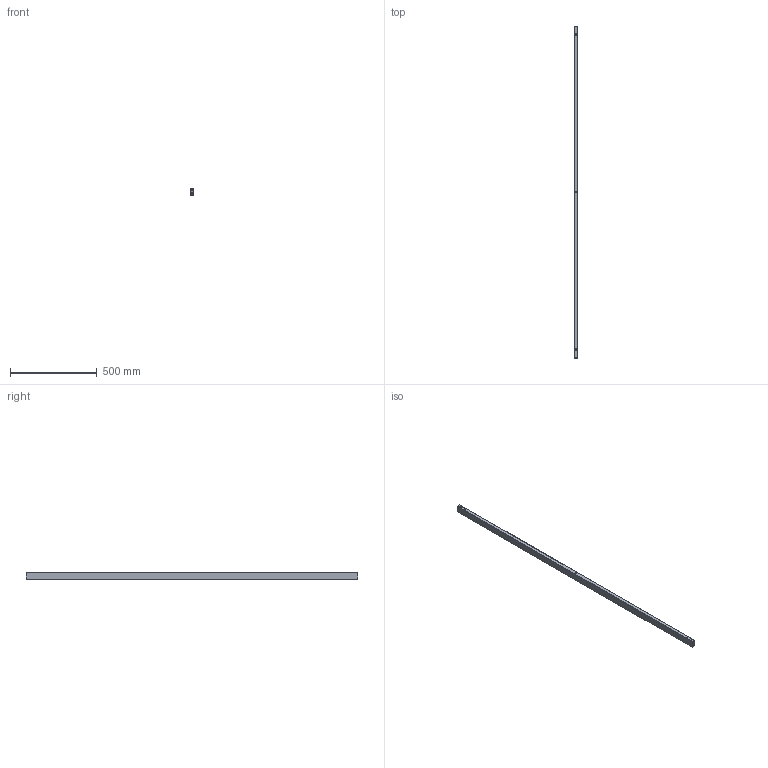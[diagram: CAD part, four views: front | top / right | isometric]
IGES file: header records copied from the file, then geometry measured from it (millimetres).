
Start section: Data from Parasolid IGES Translator 20.0.26, Copyright(c) 2006 Siemens P LM Software. All Rights Reserved.
Global section: file name: 46016.igs; native system: By Siemens PLM Incorporated; preprocessor: XPlus GENERIC/IGES 20.0.26; author: Noname; organization: Noname; date: 20210125.173235; units: millimetre
Bounding box: 20 x 1910 x 41.5 mm (x, y, z)
Surface area: 438546 mm2 (no closed solid volume)
Topology: 0 solids, 0 shells, 33 faces, 174 edges, 136 vertices
Faces by surface type: revolution 21, extrusion 12
